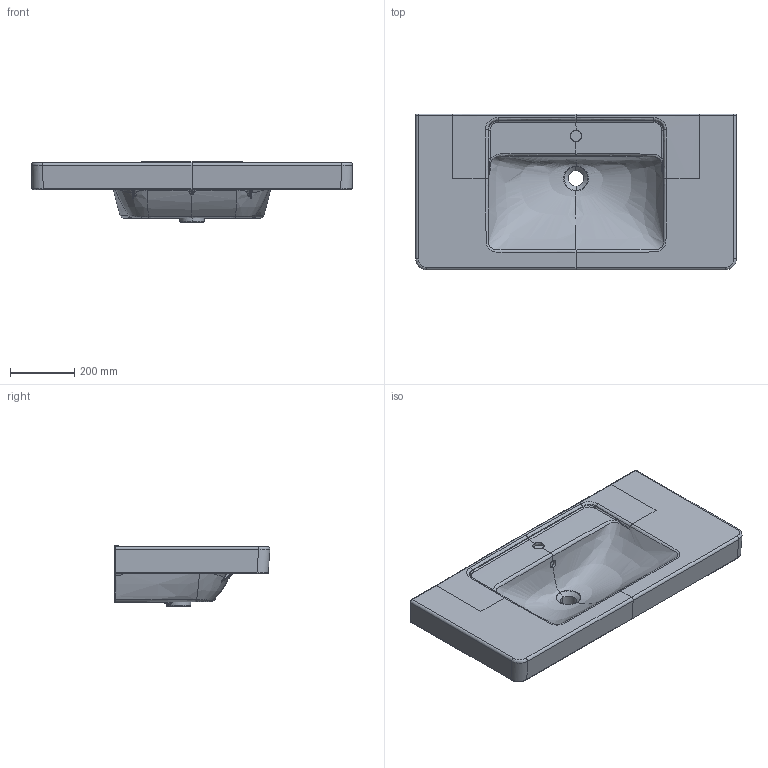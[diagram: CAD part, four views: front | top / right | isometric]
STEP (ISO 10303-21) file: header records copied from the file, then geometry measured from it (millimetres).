
FILE_DESCRIPTION(/* description */ (''),/* implementation_level */ '2;1');
FILE_NAME(/* name */ '611610_Subway_OA_SWT-100.stp',/* time_stamp */ '2018-11-09T12:17:51+01:00',/* author */ (''),/* organization */ (''),/* preprocessor_version */ 'ST-DEVELOPER v16',/* originating_system */ 'SIEMENS PLM Software NX 10.0',/* authorisation */ '');
FILE_SCHEMA (('AUTOMOTIVE_DESIGN { 1 0 10303 214 3 1 1 1 }'));
Length unit declared in the file: millimetre
Products named in the file (1): Sier14D0065Fwvx9
Bounding box: 1000 x 484.96 x 189 mm (x, y, z)
Volume: 38081134.9 mm3; surface area: 1396590.8 mm2
Topology: 1 solids, 1 shells, 230 faces, 575 edges, 332 vertices
Faces by surface type: bspline 159, cylinder 38, plane 19, extrusion 8, cone 4, torus 2
Entity records: 19246 total; most frequent: CARTESIAN_POINT 15172, ORIENTED_EDGE 1124, EDGE_CURVE 562, DIRECTION 443, VERTEX_POINT 332, B_SPLINE_CURVE_WITH_KNOTS 321, ADVANCED_FACE 230, FACE_OUTER_BOUND 230
